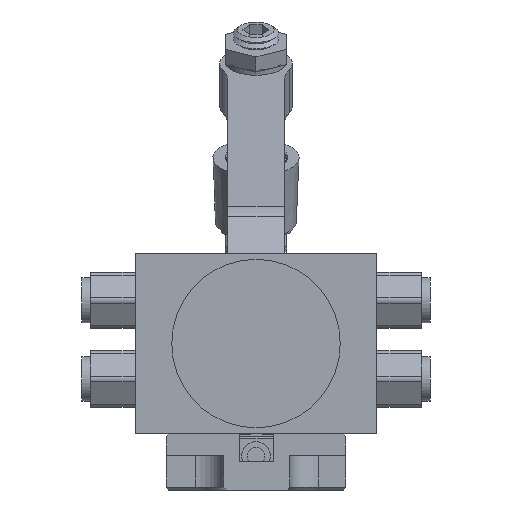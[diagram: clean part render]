
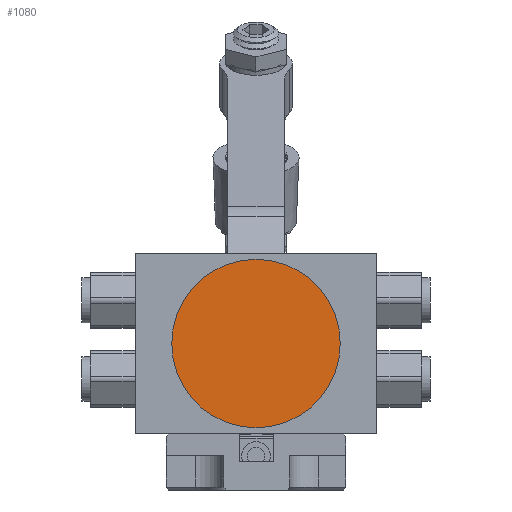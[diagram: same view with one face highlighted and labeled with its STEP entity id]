
A CAD part, left-side view. The second image highlights one B-rep face of the part: STEP entity #1080.
In plain terms, the highlighted planar face has unit normal (-1, 0, 0).
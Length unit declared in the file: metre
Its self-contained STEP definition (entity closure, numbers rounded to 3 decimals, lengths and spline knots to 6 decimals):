
#1080=ADVANCED_FACE('',(#2633),#2634,.T.);
#2633=FACE_OUTER_BOUND('',#5413,.T.);
#2634=PLANE('',#5414);
#5413=EDGE_LOOP('',(#8786));
#5414=AXIS2_PLACEMENT_3D('',#8787,#8788,#8789);
#8786=ORIENTED_EDGE('',*,*,#12001,.T.);
#8787=CARTESIAN_POINT('',(-0.03475,0.016,-0.01608));
#8788=DIRECTION('',(-1.0,0.,0.));
#8789=DIRECTION('',(0.,1.0,0.0));
#12001=EDGE_CURVE('',#13828,#13828,#13829,.T.);
#13828=VERTEX_POINT('',#16749);
#13829=CIRCLE('',#16750,0.015);
#16749=CARTESIAN_POINT('',(-0.03475,0.001,-0.01608));
#16750=AXIS2_PLACEMENT_3D('',#20733,#20734,#20735);
#20733=CARTESIAN_POINT('',(-0.03475,0.016,-0.01608));
#20734=DIRECTION('',(-1.0,0.,0.));
#20735=DIRECTION('',(0.,-1.0,0.0));
